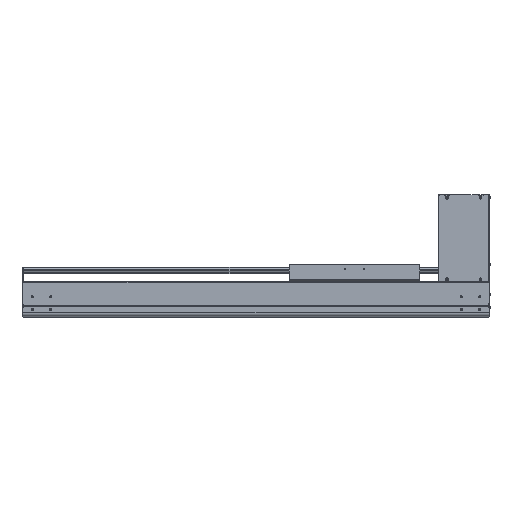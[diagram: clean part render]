
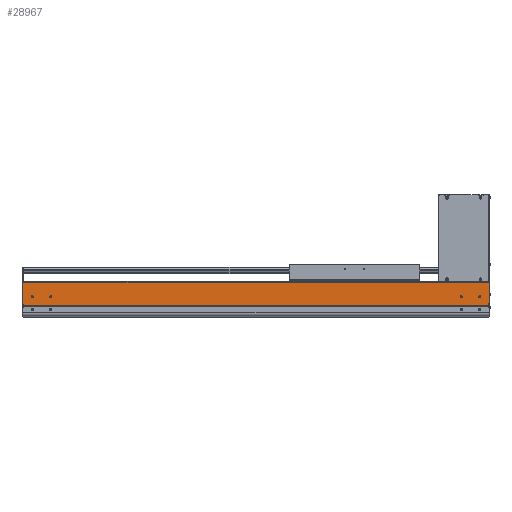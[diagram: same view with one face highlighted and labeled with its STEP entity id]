
A CAD part, top view. The second image highlights one B-rep face of the part: STEP entity #28967.
In plain terms, the highlighted planar face has unit normal (0, 0, 1).
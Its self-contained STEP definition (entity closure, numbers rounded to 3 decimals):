
#626=CARTESIAN_POINT('',(0.,94.,107.));
#7793=DIRECTION('',(-1.,0.,0.));
#7794=VECTOR('',#7793,1248.5);
#7795=CARTESIAN_POINT('',(0.,93.5,107.));
#7796=LINE('',#7795,#7794);
#7823=CARTESIAN_POINT('',(-1223.5,54.,107.));
#7824=DIRECTION('',(0.,0.,-1.));
#7825=DIRECTION('',(1.,0.,0.));
#7826=AXIS2_PLACEMENT_3D('',#7823,#7824,#7825);
#7828=CARTESIAN_POINT('',(-1223.5,54.,107.));
#7829=DIRECTION('',(0.,0.,-1.));
#7830=DIRECTION('',(-1.,0.,0.));
#7831=AXIS2_PLACEMENT_3D('',#7828,#7829,#7830);
#7833=CARTESIAN_POINT('',(-1173.5,54.,107.));
#7834=DIRECTION('',(0.,0.,-1.));
#7835=DIRECTION('',(1.,0.,0.));
#7836=AXIS2_PLACEMENT_3D('',#7833,#7834,#7835);
#7838=CARTESIAN_POINT('',(-1173.5,54.,107.));
#7839=DIRECTION('',(0.,0.,-1.));
#7840=DIRECTION('',(-1.,0.,0.));
#7841=AXIS2_PLACEMENT_3D('',#7838,#7839,#7840);
#7843=CARTESIAN_POINT('',(-23.5,54.,107.));
#7844=DIRECTION('',(0.,0.,-1.));
#7845=DIRECTION('',(1.,0.,0.));
#7846=AXIS2_PLACEMENT_3D('',#7843,#7844,#7845);
#7848=CARTESIAN_POINT('',(-23.5,54.,107.));
#7849=DIRECTION('',(0.,0.,-1.));
#7850=DIRECTION('',(-1.,0.,0.));
#7851=AXIS2_PLACEMENT_3D('',#7848,#7849,#7850);
#7853=CARTESIAN_POINT('',(-73.5,54.,107.));
#7854=DIRECTION('',(0.,0.,-1.));
#7855=DIRECTION('',(1.,0.,0.));
#7856=AXIS2_PLACEMENT_3D('',#7853,#7854,#7855);
#7858=CARTESIAN_POINT('',(-73.5,54.,107.));
#7859=DIRECTION('',(0.,0.,-1.));
#7860=DIRECTION('',(-1.,0.,0.));
#7861=AXIS2_PLACEMENT_3D('',#7858,#7859,#7860);
#7863=DIRECTION('',(0.,-1.,0.));
#7864=VECTOR('',#7863,2.55);
#7865=CARTESIAN_POINT('',(-1246.5,34.65,107.));
#7866=LINE('',#7865,#7864);
#7867=DIRECTION('',(0.,-1.,0.));
#7868=VECTOR('',#7867,58.85);
#7869=CARTESIAN_POINT('',(-1248.5,93.5,107.));
#7870=LINE('',#7869,#7868);
#7871=DIRECTION('',(0.,-1.,0.));
#7872=VECTOR('',#7871,0.5);
#7873=CARTESIAN_POINT('',(0.,94.,107.));
#7874=LINE('',#7873,#7872);
#7875=DIRECTION('',(0.,1.,0.));
#7876=VECTOR('',#7875,58.35);
#7877=CARTESIAN_POINT('',(1.5,35.65,107.));
#7878=LINE('',#7877,#7876);
#7879=DIRECTION('',(0.,1.,0.));
#7880=VECTOR('',#7879,3.55);
#7881=CARTESIAN_POINT('',(0.,32.1,107.));
#7882=LINE('',#7881,#7880);
#7883=DIRECTION('',(1.,0.,0.));
#7884=VECTOR('',#7883,1246.5);
#7885=CARTESIAN_POINT('',(-1246.5,32.1,107.));
#7886=LINE('',#7885,#7884);
#7995=DIRECTION('',(1.,0.,0.));
#7996=VECTOR('',#7995,2.);
#7997=CARTESIAN_POINT('',(-1248.5,34.65,107.));
#7998=LINE('',#7997,#7996);
#8023=DIRECTION('',(-1.,0.,0.));
#8024=VECTOR('',#8023,1.5);
#8025=CARTESIAN_POINT('',(1.5,94.,107.));
#8026=LINE('',#8025,#8024);
#8027=DIRECTION('',(1.,0.,0.));
#8028=VECTOR('',#8027,1.5);
#8029=CARTESIAN_POINT('',(0.,35.65,107.));
#8030=LINE('',#8029,#8028);
#15102=CARTESIAN_POINT('',(1.5,94.,107.));
#15103=VERTEX_POINT('',#15102);
#15104=CARTESIAN_POINT('',(1.5,35.65,107.));
#15105=VERTEX_POINT('',#15104);
#15146=VERTEX_POINT('',#626);
#15178=CARTESIAN_POINT('',(-1248.5,34.65,107.));
#15179=VERTEX_POINT('',#15178);
#15180=CARTESIAN_POINT('',(-1248.5,93.5,107.));
#15181=VERTEX_POINT('',#15180);
#15406=CARTESIAN_POINT('',(-1246.5,32.1,107.));
#15407=VERTEX_POINT('',#15406);
#15457=CARTESIAN_POINT('',(0.,32.1,107.));
#15459=VERTEX_POINT('',#15457);
#15892=CARTESIAN_POINT('',(-1221.,54.,107.));
#15893=CARTESIAN_POINT('',(-1226.,54.,107.));
#15894=VERTEX_POINT('',#15892);
#15895=VERTEX_POINT('',#15893);
#15896=CARTESIAN_POINT('',(-1171.,54.,107.));
#15897=CARTESIAN_POINT('',(-1176.,54.,107.));
#15898=VERTEX_POINT('',#15896);
#15899=VERTEX_POINT('',#15897);
#15900=CARTESIAN_POINT('',(-21.,54.,107.));
#15901=CARTESIAN_POINT('',(-26.,54.,107.));
#15902=VERTEX_POINT('',#15900);
#15903=VERTEX_POINT('',#15901);
#15904=CARTESIAN_POINT('',(-71.,54.,107.));
#15905=CARTESIAN_POINT('',(-76.,54.,107.));
#15906=VERTEX_POINT('',#15904);
#15907=VERTEX_POINT('',#15905);
#17770=CARTESIAN_POINT('',(0.,35.65,107.));
#17771=VERTEX_POINT('',#17770);
#18016=CARTESIAN_POINT('',(0.,93.5,107.));
#18017=VERTEX_POINT('',#18016);
#18359=CARTESIAN_POINT('',(-1246.5,34.65,107.));
#18360=VERTEX_POINT('',#18359);
#28922=CARTESIAN_POINT('',(-623.25,62.8,107.));
#28923=DIRECTION('',(0.,0.,1.));
#28924=DIRECTION('',(0.,-1.,0.));
#28925=AXIS2_PLACEMENT_3D('',#28922,#28923,#28924);
#28926=PLANE('',#28925);
#28927=ORIENTED_EDGE('',*,*,#20602,.F.);
#28929=ORIENTED_EDGE('',*,*,#28928,.F.);
#28930=ORIENTED_EDGE('',*,*,#26540,.F.);
#28931=ORIENTED_EDGE('',*,*,#28911,.F.);
#28932=ORIENTED_EDGE('',*,*,#19715,.F.);
#28934=ORIENTED_EDGE('',*,*,#28933,.F.);
#28935=ORIENTED_EDGE('',*,*,#21601,.F.);
#28937=ORIENTED_EDGE('',*,*,#28936,.F.);
#28938=ORIENTED_EDGE('',*,*,#21363,.F.);
#28940=ORIENTED_EDGE('',*,*,#28939,.F.);
#28941=EDGE_LOOP('',(#28927,#28929,#28930,#28931,#28932,#28934,#28935,#28937,
#28938,#28940));
#28942=FACE_OUTER_BOUND('',#28941,.F.);
#28944=ORIENTED_EDGE('',*,*,#28943,.F.);
#28946=ORIENTED_EDGE('',*,*,#28945,.F.);
#28947=EDGE_LOOP('',(#28944,#28946));
#28948=FACE_BOUND('',#28947,.F.);
#28950=ORIENTED_EDGE('',*,*,#28949,.F.);
#28952=ORIENTED_EDGE('',*,*,#28951,.F.);
#28953=EDGE_LOOP('',(#28950,#28952));
#28954=FACE_BOUND('',#28953,.F.);
#28956=ORIENTED_EDGE('',*,*,#28955,.F.);
#28958=ORIENTED_EDGE('',*,*,#28957,.F.);
#28959=EDGE_LOOP('',(#28956,#28958));
#28960=FACE_BOUND('',#28959,.F.);
#28962=ORIENTED_EDGE('',*,*,#28961,.F.);
#28964=ORIENTED_EDGE('',*,*,#28963,.F.);
#28965=EDGE_LOOP('',(#28962,#28964));
#28966=FACE_BOUND('',#28965,.F.);
#28967=ADVANCED_FACE('',(#28942,#28948,#28954,#28960,#28966),#28926,.T.);
#7827=CIRCLE('',#7826,2.5);
#7832=CIRCLE('',#7831,2.5);
#7837=CIRCLE('',#7836,2.5);
#7842=CIRCLE('',#7841,2.5);
#7847=CIRCLE('',#7846,2.5);
#7852=CIRCLE('',#7851,2.5);
#7857=CIRCLE('',#7856,2.5);
#7862=CIRCLE('',#7861,2.5);
#19715=EDGE_CURVE('',#15146,#18017,#7874,.T.);
#20602=EDGE_CURVE('',#18360,#15407,#7866,.T.);
#21363=EDGE_CURVE('',#15459,#17771,#7882,.T.);
#21601=EDGE_CURVE('',#15105,#15103,#7878,.T.);
#26540=EDGE_CURVE('',#15181,#15179,#7870,.T.);
#28911=EDGE_CURVE('',#18017,#15181,#7796,.T.);
#28928=EDGE_CURVE('',#15179,#18360,#7998,.T.);
#28933=EDGE_CURVE('',#15103,#15146,#8026,.T.);
#28936=EDGE_CURVE('',#17771,#15105,#8030,.T.);
#28939=EDGE_CURVE('',#15407,#15459,#7886,.T.);
#28943=EDGE_CURVE('',#15898,#15899,#7837,.T.);
#28945=EDGE_CURVE('',#15899,#15898,#7842,.T.);
#28949=EDGE_CURVE('',#15902,#15903,#7847,.T.);
#28951=EDGE_CURVE('',#15903,#15902,#7852,.T.);
#28955=EDGE_CURVE('',#15906,#15907,#7857,.T.);
#28957=EDGE_CURVE('',#15907,#15906,#7862,.T.);
#28961=EDGE_CURVE('',#15894,#15895,#7827,.T.);
#28963=EDGE_CURVE('',#15895,#15894,#7832,.T.);
